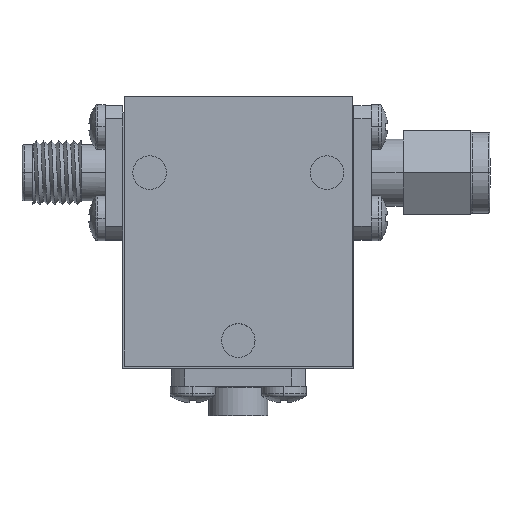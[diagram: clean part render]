
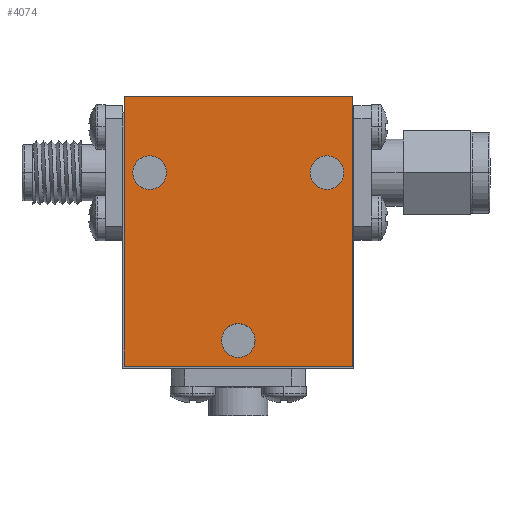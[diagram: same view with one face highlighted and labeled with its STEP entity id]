
A CAD part, top view. The second image highlights one B-rep face of the part: STEP entity #4074.
In plain terms, the highlighted planar face has unit normal (0, 0, 1).
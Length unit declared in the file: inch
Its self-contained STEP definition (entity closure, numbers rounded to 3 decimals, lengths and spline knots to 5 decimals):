
#26 = VERTEX_POINT ( 'NONE', #3483 ) ;
#28 = CIRCLE ( 'NONE', #3421, 0.0625 ) ;
#88 = DIRECTION ( 'NONE',  ( 0., 0., -1. ) ) ;
#137 = DIRECTION ( 'NONE',  ( 0., -1., 0. ) ) ;
#177 = CIRCLE ( 'NONE', #1180, 0.0625 ) ;
#265 = AXIS2_PLACEMENT_3D ( 'NONE', #4686, #2592, #5195 ) ;
#309 = CARTESIAN_POINT ( 'NONE',  ( -0.41675, 1.005, 0.72025 ) ) ;
#336 = EDGE_CURVE ( 'NONE', #1892, #26, #4897, .T. ) ;
#351 = LINE ( 'NONE', #834, #5288 ) ;
#415 = ORIENTED_EDGE ( 'NONE', *, *, #3288, .F. ) ;
#462 = VERTEX_POINT ( 'NONE', #737 ) ;
#589 = AXIS2_PLACEMENT_3D ( 'NONE', #4223, #88, #5228 ) ;
#628 = DIRECTION ( 'NONE',  ( 0., 0., 1. ) ) ;
#672 = CIRCLE ( 'NONE', #265, 0.0625 ) ;
#737 = CARTESIAN_POINT ( 'NONE',  ( 0.43325, 0., 0.72025 ) ) ;
#834 = CARTESIAN_POINT ( 'NONE',  ( 0.43325, 1.005, 0.72025 ) ) ;
#902 = ORIENTED_EDGE ( 'NONE', *, *, #3246, .F. ) ;
#968 = CIRCLE ( 'NONE', #3025, 0.0625 ) ;
#1017 = EDGE_LOOP ( 'NONE', ( #902, #1683 ) ) ;
#1134 = EDGE_CURVE ( 'NONE', #2233, #462, #351, .T. ) ;
#1179 = DIRECTION ( 'NONE',  ( 0., -1., 0. ) ) ;
#1180 = AXIS2_PLACEMENT_3D ( 'NONE', #1938, #5436, #2433 ) ;
#1235 = CARTESIAN_POINT ( 'NONE',  ( 0.00825, 0.1575, 0.72025 ) ) ;
#1326 = CARTESIAN_POINT ( 'NONE',  ( 0.33825, 0.72, 0.72025 ) ) ;
#1443 = EDGE_CURVE ( 'NONE', #4547, #4399, #2348, .T. ) ;
#1683 = ORIENTED_EDGE ( 'NONE', *, *, #2887, .F. ) ;
#1712 = DIRECTION ( 'NONE',  ( -1., 0., 0. ) ) ;
#1731 = DIRECTION ( 'NONE',  ( 0., 0., 1. ) ) ;
#1779 = DIRECTION ( 'NONE',  ( -1., 0., 0. ) ) ;
#1892 = VERTEX_POINT ( 'NONE', #5332 ) ;
#1938 = CARTESIAN_POINT ( 'NONE',  ( 0.00825, 0.095, 0.72025 ) ) ;
#1951 = CARTESIAN_POINT ( 'NONE',  ( 0.43325, 1.005, 0.72025 ) ) ;
#1957 = EDGE_CURVE ( 'NONE', #462, #1962, #3775, .T. ) ;
#1962 = VERTEX_POINT ( 'NONE', #6504 ) ;
#2006 = VERTEX_POINT ( 'NONE', #309 ) ;
#2013 = EDGE_LOOP ( 'NONE', ( #415, #5930 ) ) ;
#2233 = VERTEX_POINT ( 'NONE', #1951 ) ;
#2319 = ORIENTED_EDGE ( 'NONE', *, *, #1957, .F. ) ;
#2348 = CIRCLE ( 'NONE', #5850, 0.0625 ) ;
#2352 = LINE ( 'NONE', #6528, #5455 ) ;
#2433 = DIRECTION ( 'NONE',  ( 0., -1., 0. ) ) ;
#2592 = DIRECTION ( 'NONE',  ( 0., 0., 1. ) ) ;
#2654 = CARTESIAN_POINT ( 'NONE',  ( 0.43325, 1.005, 0.72025 ) ) ;
#2786 = CARTESIAN_POINT ( 'NONE',  ( 0.00825, 0.0325, 0.72025 ) ) ;
#2829 = DIRECTION ( 'NONE',  ( 0., -1., 0. ) ) ;
#2851 = FACE_BOUND ( 'NONE', #2013, .T. ) ;
#2887 = EDGE_CURVE ( 'NONE', #3670, #4843, #968, .T. ) ;
#3025 = AXIS2_PLACEMENT_3D ( 'NONE', #4709, #1731, #137 ) ;
#3246 = EDGE_CURVE ( 'NONE', #4843, #3670, #177, .T. ) ;
#3253 = EDGE_LOOP ( 'NONE', ( #5006, #5465 ) ) ;
#3263 = CARTESIAN_POINT ( 'NONE',  ( 0.43325, 0., 0.72025 ) ) ;
#3288 = EDGE_CURVE ( 'NONE', #4399, #4547, #28, .T. ) ;
#3314 = FACE_OUTER_BOUND ( 'NONE', #6029, .T. ) ;
#3417 = DIRECTION ( 'NONE',  ( 0., -1., 0. ) ) ;
#3421 = AXIS2_PLACEMENT_3D ( 'NONE', #5083, #5038, #4016 ) ;
#3431 = EDGE_CURVE ( 'NONE', #26, #1892, #672, .T. ) ;
#3483 = CARTESIAN_POINT ( 'NONE',  ( -0.32175, 0.6575, 0.72025 ) ) ;
#3670 = VERTEX_POINT ( 'NONE', #1235 ) ;
#3775 = LINE ( 'NONE', #3263, #4394 ) ;
#4016 = DIRECTION ( 'NONE',  ( 0., -1., 0. ) ) ;
#4074 = ADVANCED_FACE ( 'NONE', ( #2851, #6056, #4839, #3314 ), #6142, .F. ) ;
#4172 = EDGE_CURVE ( 'NONE', #2233, #2006, #6297, .T. ) ;
#4217 = CARTESIAN_POINT ( 'NONE',  ( -0.32175, 0.72, 0.72025 ) ) ;
#4223 = CARTESIAN_POINT ( 'NONE',  ( 0.43325, 1.005, 0.72025 ) ) ;
#4394 = VECTOR ( 'NONE', #1779, 39.37008 ) ;
#4399 = VERTEX_POINT ( 'NONE', #6470 ) ;
#4547 = VERTEX_POINT ( 'NONE', #6610 ) ;
#4575 = ORIENTED_EDGE ( 'NONE', *, *, #4172, .T. ) ;
#4651 = AXIS2_PLACEMENT_3D ( 'NONE', #4217, #628, #1179 ) ;
#4686 = CARTESIAN_POINT ( 'NONE',  ( -0.32175, 0.72, 0.72025 ) ) ;
#4709 = CARTESIAN_POINT ( 'NONE',  ( 0.00825, 0.095, 0.72025 ) ) ;
#4839 = FACE_BOUND ( 'NONE', #3253, .T. ) ;
#4843 = VERTEX_POINT ( 'NONE', #2786 ) ;
#4878 = ORIENTED_EDGE ( 'NONE', *, *, #5781, .T. ) ;
#4897 = CIRCLE ( 'NONE', #4651, 0.0625 ) ;
#5006 = ORIENTED_EDGE ( 'NONE', *, *, #3431, .F. ) ;
#5038 = DIRECTION ( 'NONE',  ( 0., 0., 1. ) ) ;
#5083 = CARTESIAN_POINT ( 'NONE',  ( 0.33825, 0.72, 0.72025 ) ) ;
#5195 = DIRECTION ( 'NONE',  ( 0., -1., 0. ) ) ;
#5228 = DIRECTION ( 'NONE',  ( 0., 1., 0. ) ) ;
#5288 = VECTOR ( 'NONE', #2829, 39.37008 ) ;
#5332 = CARTESIAN_POINT ( 'NONE',  ( -0.32175, 0.7825, 0.72025 ) ) ;
#5402 = DIRECTION ( 'NONE',  ( 0., -1., 0. ) ) ;
#5436 = DIRECTION ( 'NONE',  ( 0., 0., 1. ) ) ;
#5455 = VECTOR ( 'NONE', #3417, 39.37008 ) ;
#5465 = ORIENTED_EDGE ( 'NONE', *, *, #336, .F. ) ;
#5781 = EDGE_CURVE ( 'NONE', #2006, #1962, #2352, .T. ) ;
#5850 = AXIS2_PLACEMENT_3D ( 'NONE', #1326, #5904, #5402 ) ;
#5904 = DIRECTION ( 'NONE',  ( 0., 0., 1. ) ) ;
#5930 = ORIENTED_EDGE ( 'NONE', *, *, #1443, .F. ) ;
#6029 = EDGE_LOOP ( 'NONE', ( #4878, #2319, #6055, #4575 ) ) ;
#6055 = ORIENTED_EDGE ( 'NONE', *, *, #1134, .F. ) ;
#6056 = FACE_BOUND ( 'NONE', #1017, .T. ) ;
#6138 = VECTOR ( 'NONE', #1712, 39.37008 ) ;
#6142 = PLANE ( 'NONE',  #589 ) ;
#6297 = LINE ( 'NONE', #2654, #6138 ) ;
#6470 = CARTESIAN_POINT ( 'NONE',  ( 0.33825, 0.6575, 0.72025 ) ) ;
#6504 = CARTESIAN_POINT ( 'NONE',  ( -0.41675, 0., 0.72025 ) ) ;
#6528 = CARTESIAN_POINT ( 'NONE',  ( -0.41675, 1.005, 0.72025 ) ) ;
#6610 = CARTESIAN_POINT ( 'NONE',  ( 0.33825, 0.7825, 0.72025 ) ) ;
